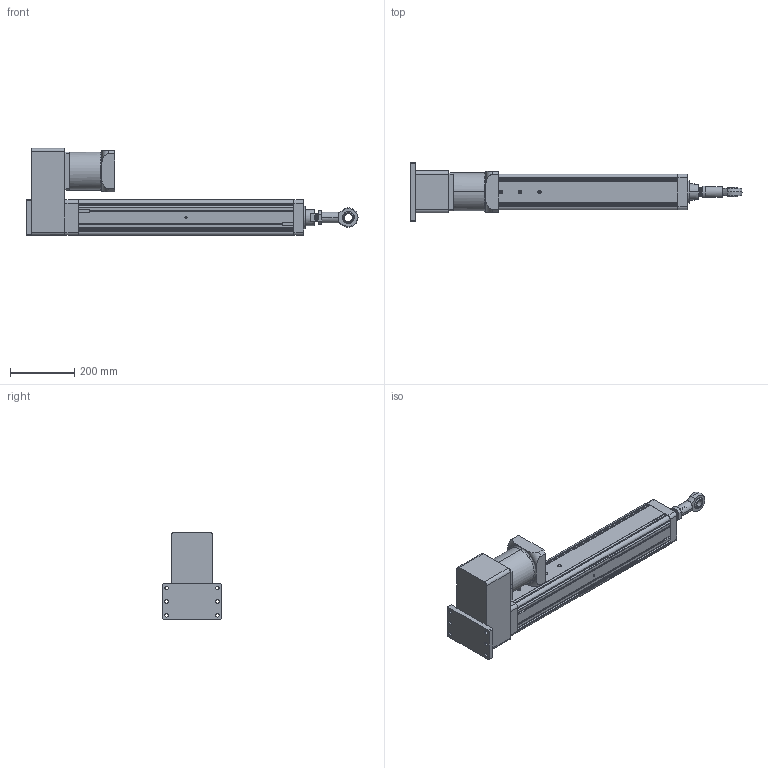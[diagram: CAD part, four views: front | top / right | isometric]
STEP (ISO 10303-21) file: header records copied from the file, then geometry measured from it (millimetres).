
FILE_DESCRIPTION (( 'STEP AP203' ), '1' );
FILE_NAME ('YRJ110-L500-H4K3.STEP', '2020-01-06T01:46:31', ( 'User' ), ( 'China' ), 'SwSTEP 2.0', 'SolidWorks 2016', '' );
FILE_SCHEMA (( 'CONFIG_CONTROL_DESIGN' ));
Length unit declared in the file: millimetre
Products named in the file (12): 095-100俴最倰第; _BNC01-SI25T_K-R-002; H5-110-1; BNC01-SI25T_K-R; 萇儂碟-110; K3-110; H3-110-2; YRJ110-L500-H4K3; H4-110; 120遺1500W珨撰熬厒儂; K1-110; _BNC01-SI25T_K-R-001
Assembly tree (11 placements, depth 4):
  YRJ110-L500-H4K3
    095-100俴最倰第
    H5-110-1
    萇儂碟-110
    H3-110-2
    H4-110
    120遺1500W珨撰熬厒儂
    K3-110
      K1-110
      BNC01-SI25T_K-R
        _BNC01-SI25T_K-R-001
        _BNC01-SI25T_K-R-002
Bounding box: 1031 x 185 x 271 mm (x, y, z)
Volume: 9578112.9 mm3; surface area: 1034059.2 mm2
Topology: 9 solids, 9 shells, 410 faces, 1116 edges, 713 vertices
Faces by surface type: cylinder 178, plane 173, cone 36, bspline 18, torus 5
Entity records: 23256 total; most frequent: CARTESIAN_POINT 11868, ORIENTED_EDGE 2176, DIRECTION 2052, EDGE_CURVE 1088, AXIS2_PLACEMENT_3D 721, VERTEX_POINT 713, VECTOR 610, LINE 610
